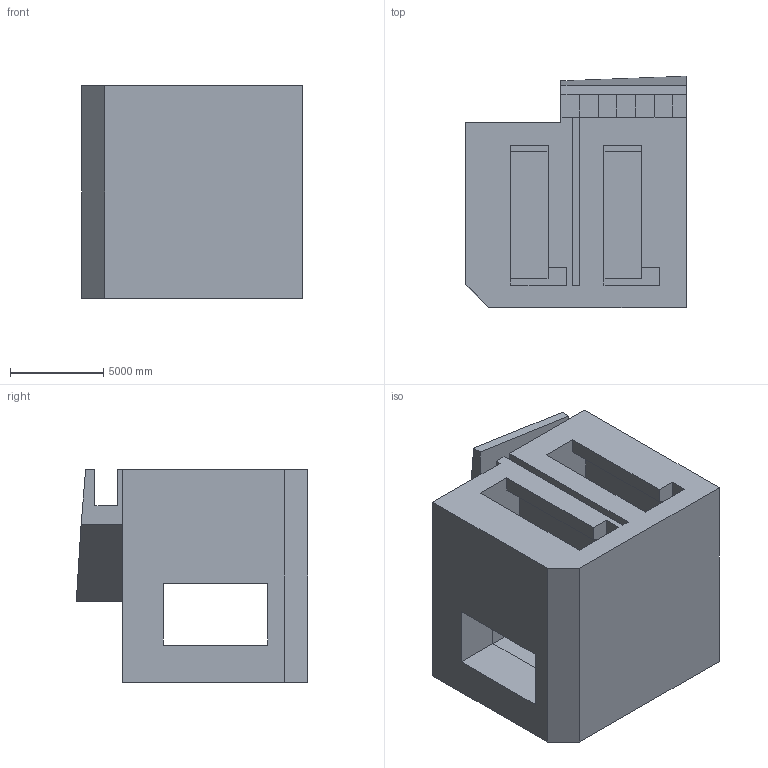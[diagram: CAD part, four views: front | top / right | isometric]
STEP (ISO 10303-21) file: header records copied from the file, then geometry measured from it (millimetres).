
FILE_DESCRIPTION(('Open CASCADE Model'),'2;1');
FILE_NAME('Open CASCADE Shape Model','2026-01-15T19:03:03',('Author'),( 'Open CASCADE'),'Open CASCADE STEP processor 7.4','Open CASCADE 7.4' ,'Unknown');
FILE_SCHEMA(('AUTOMOTIVE_DESIGN { 1 0 10303 214 1 1 1 1 }'));
Length unit declared in the file: millimetre
Products named in the file (1): Open CASCADE STEP translator 7.4 1
Bounding box: 11800 x 12400 x 11400.01 mm (x, y, z)
Volume: 805944285294.8 mm3; surface area: 1295177490.5 mm2
Topology: 1 solids, 1 shells, 72 faces, 198 edges, 132 vertices
Faces by surface type: plane 72
Entity records: 4838 total; most frequent: CARTESIAN_POINT 799, DIRECTION 740, LINE 594, VECTOR 594, ORIENTED_EDGE 396, PCURVE 396, DEFINITIONAL_REPRESENTATION 396, EDGE_CURVE 198
